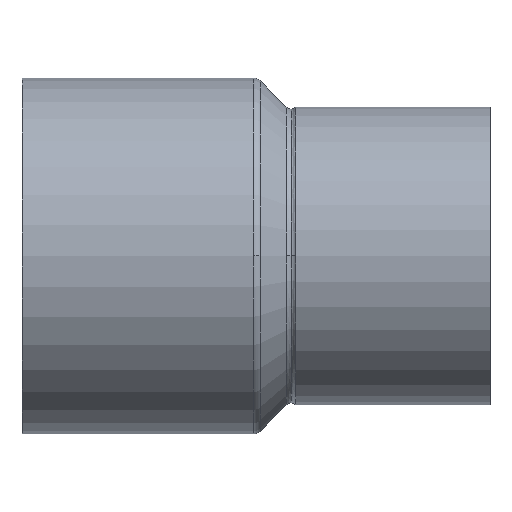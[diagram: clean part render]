
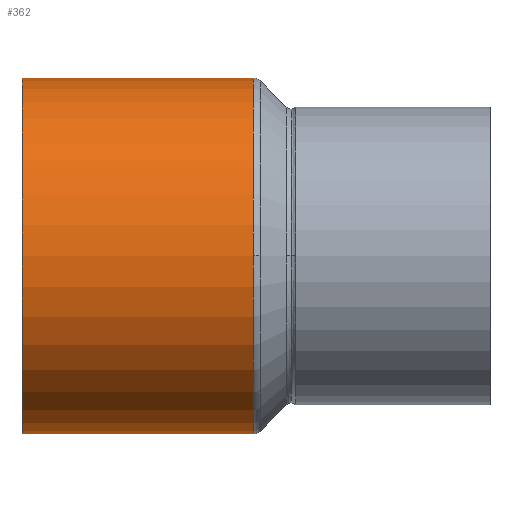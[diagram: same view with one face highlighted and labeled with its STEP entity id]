
A CAD part, top view. The second image highlights one B-rep face of the part: STEP entity #362.
In plain terms, the highlighted cylindrical face has radius 27 mm (diameter 54 mm), a partial arc.
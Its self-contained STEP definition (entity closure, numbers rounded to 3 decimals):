
#312=CARTESIAN_POINT('',(17.526,0.0,0.0));
#313=DIRECTION('',(1.0,0.0,0.0));
#314=DIRECTION('',(0.0,1.0,0.0));
#315=AXIS2_PLACEMENT_3D('',#312,#313,#314);
#316=CYLINDRICAL_SURFACE('',#315,27.0);
#317=CARTESIAN_POINT('',(0.,27.0,0.0));
#318=VERTEX_POINT('',#317);
#319=CARTESIAN_POINT('',(35.052,27.0,0.0));
#320=VERTEX_POINT('',#319);
#321=CARTESIAN_POINT('',(0.,27.0,0.0));
#322=DIRECTION('',(1.0,0.0,0.0));
#323=VECTOR('',#322,35.052);
#324=LINE('',#321,#323);
#325=EDGE_CURVE('',#318,#320,#324,.T.);
#326=ORIENTED_EDGE('',*,*,#325,.F.);
#327=CARTESIAN_POINT('',(0.,-27.0,0.));
#328=VERTEX_POINT('',#327);
#329=CARTESIAN_POINT('',(0.,0.0,0.0));
#330=DIRECTION('',(1.0,0.0,0.0));
#331=DIRECTION('',(0.0,1.0,0.0));
#332=AXIS2_PLACEMENT_3D('',#329,#330,#331);
#333=CIRCLE('',#332,27.0);
#334=EDGE_CURVE('',#318,#328,#333,.T.);
#335=ORIENTED_EDGE('',*,*,#334,.T.);
#336=CARTESIAN_POINT('',(35.052,-27.0,0.));
#337=VERTEX_POINT('',#336);
#338=CARTESIAN_POINT('',(35.052,-27.0,0.));
#339=DIRECTION('',(-1.0,0.0,0.0));
#340=VECTOR('',#339,35.052);
#341=LINE('',#338,#340);
#342=EDGE_CURVE('',#337,#328,#341,.T.);
#343=ORIENTED_EDGE('',*,*,#342,.F.);
#344=CARTESIAN_POINT('',(35.052,0.,27.0));
#345=VERTEX_POINT('',#344);
#346=CARTESIAN_POINT('',(35.052,0.0,0.0));
#347=DIRECTION('',(1.0,0.0,0.0));
#348=DIRECTION('',(0.0,1.0,0.0));
#349=AXIS2_PLACEMENT_3D('',#346,#347,#348);
#350=CIRCLE('',#349,27.0);
#351=EDGE_CURVE('',#345,#337,#350,.T.);
#352=ORIENTED_EDGE('',*,*,#351,.F.);
#353=CARTESIAN_POINT('',(35.052,0.0,0.0));
#354=DIRECTION('',(1.0,0.0,0.0));
#355=DIRECTION('',(0.0,1.0,0.0));
#356=AXIS2_PLACEMENT_3D('',#353,#354,#355);
#357=CIRCLE('',#356,27.0);
#358=EDGE_CURVE('',#320,#345,#357,.T.);
#359=ORIENTED_EDGE('',*,*,#358,.F.);
#360=EDGE_LOOP('',(#326,#335,#343,#352,#359));
#361=FACE_OUTER_BOUND('',#360,.T.);
#362=ADVANCED_FACE('',(#361),#316,.T.);
